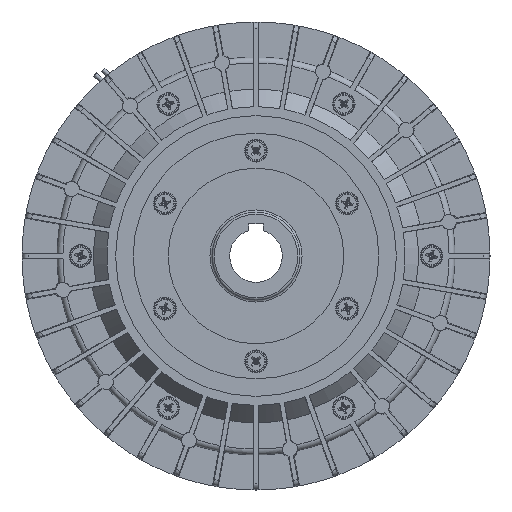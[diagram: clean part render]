
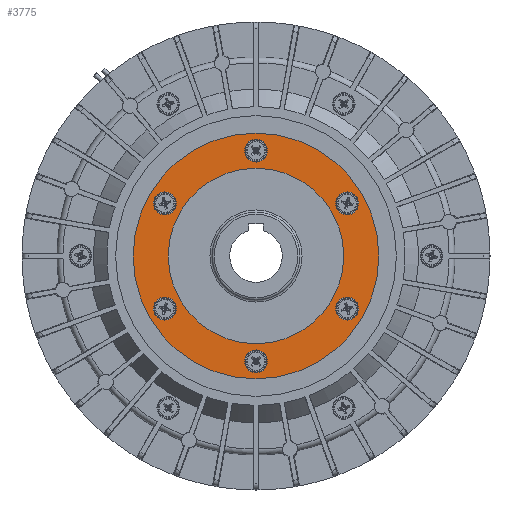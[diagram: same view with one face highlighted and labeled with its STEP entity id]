
A CAD part, left-side view. The second image highlights one B-rep face of the part: STEP entity #3775.
In plain terms, the highlighted planar face has unit normal (-1, 0, 0).
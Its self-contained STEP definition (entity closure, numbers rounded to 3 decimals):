
#3775=ADVANCED_FACE('',(#15844,#15846,#15848,#15850,#15852,#15854,#15856,#15858),
#15860,.T.);
#15844=FACE_BOUND('',#15845,.T.);
#15845=EDGE_LOOP('',(#25260));
#15846=FACE_BOUND('',#15847,.T.);
#15847=EDGE_LOOP('',(#25261));
#15848=FACE_BOUND('',#15849,.T.);
#15849=EDGE_LOOP('',(#25262));
#15850=FACE_BOUND('',#15851,.T.);
#15851=EDGE_LOOP('',(#25263));
#15852=FACE_BOUND('',#15853,.T.);
#15853=EDGE_LOOP('',(#25264));
#15854=FACE_BOUND('',#15855,.T.);
#15855=EDGE_LOOP('',(#25265));
#15856=FACE_BOUND('',#15857,.T.);
#15857=EDGE_LOOP('',(#25266));
#15858=FACE_BOUND('',#15859,.T.);
#15859=EDGE_LOOP('',(#25267));
#15860=PLANE('',#15861);
#15861=AXIS2_PLACEMENT_3D('',#15862,#15863,#15864);
#15862=CARTESIAN_POINT('',(-82.,0.,0.));
#15863=DIRECTION('',(-1.,-0.,0.));
#15864=DIRECTION('',(0.,0.,1.));
#25260=ORIENTED_EDGE('',*,*,#31486,.T.);
#25261=ORIENTED_EDGE('',*,*,#31487,.T.);
#25262=ORIENTED_EDGE('',*,*,#31488,.T.);
#25263=ORIENTED_EDGE('',*,*,#31489,.T.);
#25264=ORIENTED_EDGE('',*,*,#31490,.T.);
#25265=ORIENTED_EDGE('',*,*,#31491,.T.);
#25266=ORIENTED_EDGE('',*,*,#31492,.T.);
#25267=ORIENTED_EDGE('',*,*,#31493,.T.);
#31486=EDGE_CURVE('',#35188,#35188,#35189,.T.);
#31487=EDGE_CURVE('',#35190,#35190,#35191,.F.);
#31488=EDGE_CURVE('',#35192,#35192,#35193,.F.);
#31489=EDGE_CURVE('',#35194,#35194,#35195,.F.);
#31490=EDGE_CURVE('',#35196,#35196,#35197,.F.);
#31491=EDGE_CURVE('',#35198,#35198,#35199,.F.);
#31492=EDGE_CURVE('',#35200,#35200,#35201,.F.);
#31493=EDGE_CURVE('',#35202,#35202,#35203,.F.);
#35188=VERTEX_POINT('',#42374);
#35189=CIRCLE('',#42375,42.);
#35190=VERTEX_POINT('',#42379);
#35191=CIRCLE('',#42380,2.);
#35192=VERTEX_POINT('',#42384);
#35193=CIRCLE('',#42385,2.);
#35194=VERTEX_POINT('',#42389);
#35195=CIRCLE('',#42390,2.);
#35196=VERTEX_POINT('',#42394);
#35197=CIRCLE('',#42395,2.);
#35198=VERTEX_POINT('',#42399);
#35199=CIRCLE('',#42400,2.);
#35200=VERTEX_POINT('',#42404);
#35201=CIRCLE('',#42405,30.);
#35202=VERTEX_POINT('',#42409);
#35203=CIRCLE('',#42410,2.);
#42374=CARTESIAN_POINT('',(-82.,0.,-42.));
#42375=AXIS2_PLACEMENT_3D('',#42376,#42377,#42378);
#42376=CARTESIAN_POINT('',(-82.,0.,0.));
#42377=DIRECTION('',(-1.,-0.,0.));
#42378=DIRECTION('',(0.,0.,-1.));
#42379=CARTESIAN_POINT('',(-82.,-29.445,17.));
#42380=AXIS2_PLACEMENT_3D('',#42381,#42382,#42383);
#42381=CARTESIAN_POINT('',(-82.,-31.177,18.));
#42382=DIRECTION('',(-1.,-0.,0.));
#42383=DIRECTION('',(0.,0.866,-0.5));
#42384=CARTESIAN_POINT('',(-82.,-29.445,-17.));
#42385=AXIS2_PLACEMENT_3D('',#42386,#42387,#42388);
#42386=CARTESIAN_POINT('',(-82.,-31.177,-18.));
#42387=DIRECTION('',(-1.,-0.,0.));
#42388=DIRECTION('',(0.,0.866,0.5));
#42389=CARTESIAN_POINT('',(-82.,0.,-34.));
#42390=AXIS2_PLACEMENT_3D('',#42391,#42392,#42393);
#42391=CARTESIAN_POINT('',(-82.,0.,-36.));
#42392=DIRECTION('',(-1.,-0.,0.));
#42393=DIRECTION('',(0.,0.,1.));
#42394=CARTESIAN_POINT('',(-82.,29.445,-17.));
#42395=AXIS2_PLACEMENT_3D('',#42396,#42397,#42398);
#42396=CARTESIAN_POINT('',(-82.,31.177,-18.));
#42397=DIRECTION('',(-1.,-0.,0.));
#42398=DIRECTION('',(0.,-0.866,0.5));
#42399=CARTESIAN_POINT('',(-82.,29.445,17.));
#42400=AXIS2_PLACEMENT_3D('',#42401,#42402,#42403);
#42401=CARTESIAN_POINT('',(-82.,31.177,18.));
#42402=DIRECTION('',(-1.,-0.,0.));
#42403=DIRECTION('',(-0.,-0.866,-0.5));
#42404=CARTESIAN_POINT('',(-82.,0.,-30.));
#42405=AXIS2_PLACEMENT_3D('',#42406,#42407,#42408);
#42406=CARTESIAN_POINT('',(-82.,0.,0.));
#42407=DIRECTION('',(-1.,-0.,0.));
#42408=DIRECTION('',(0.,0.,-1.));
#42409=CARTESIAN_POINT('',(-82.,0.,34.));
#42410=AXIS2_PLACEMENT_3D('',#42411,#42412,#42413);
#42411=CARTESIAN_POINT('',(-82.,0.,36.));
#42412=DIRECTION('',(-1.,-0.,0.));
#42413=DIRECTION('',(0.,0.,-1.));
